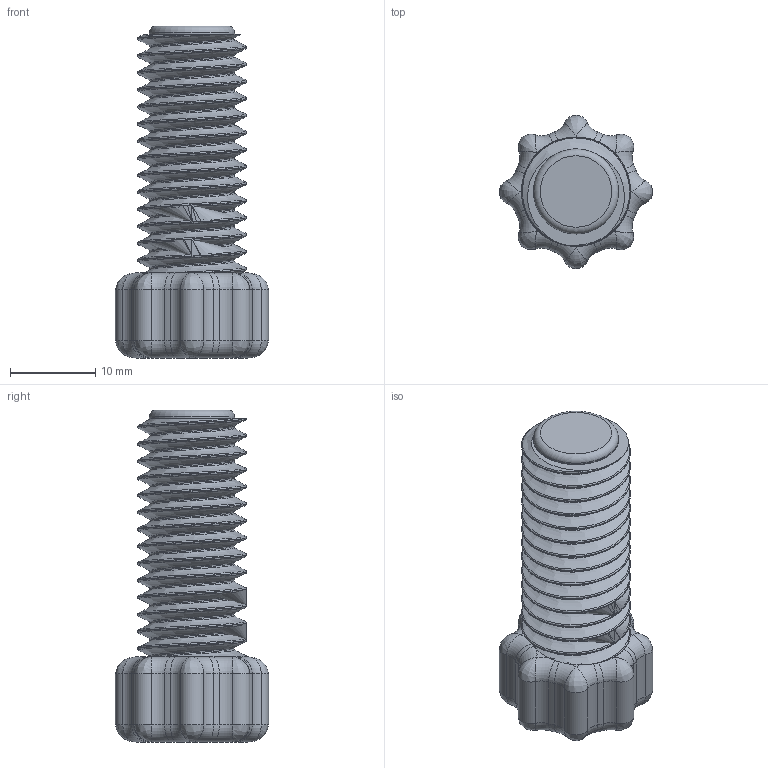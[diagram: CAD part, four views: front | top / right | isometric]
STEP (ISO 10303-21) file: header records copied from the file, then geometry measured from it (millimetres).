
FILE_DESCRIPTION(/* description */ (''),/* implementation_level */ '2;1');
FILE_NAME(/* name */ 'V:\Flow\Inventor\PEEK\BPR\Schraube oben.stp',/* time_stamp */ '2019-12-20T10:09:09+01:00',/* author */ ('JN'),/* organization */ (''),/* preprocessor_version */ 'ST-DEVELOPER v17',/* originating_system */ 'Autodesk Inventor 2018',/* authorisation */ '');
FILE_SCHEMA (('AUTOMOTIVE_DESIGN { 1 0 10303 214 3 1 1 }'));
Length unit declared in the file: millimetre
Products named in the file (1): Schraube oben
Bounding box: 18 x 18 x 39 mm (x, y, z)
Volume: 5244.2 mm3; surface area: 4713.2 mm2
Topology: 2 solids, 2 shells, 129 faces, 306 edges, 167 vertices
Faces by surface type: cylinder 52, torus 49, bspline 22, plane 6
Full cylindrical faces by diameter (mm): 9.834 x2, 10 x1, 12.8 x15
Entity records: 12268 total; most frequent: CARTESIAN_POINT 9462, DIRECTION 589, ORIENTED_EDGE 580, EDGE_CURVE 290, AXIS2_PLACEMENT_3D 269, VERTEX_POINT 167, CIRCLE 161, EDGE_LOOP 133
